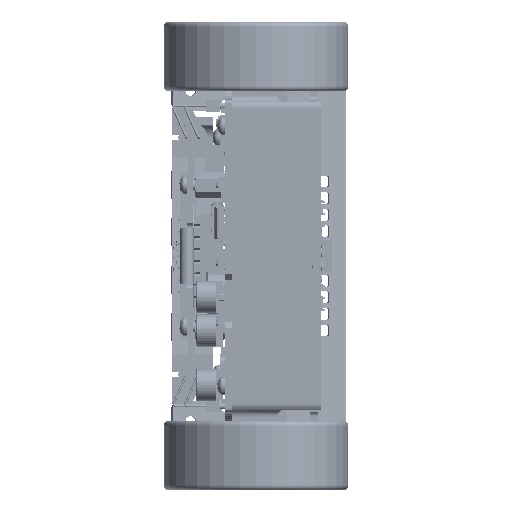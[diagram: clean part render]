
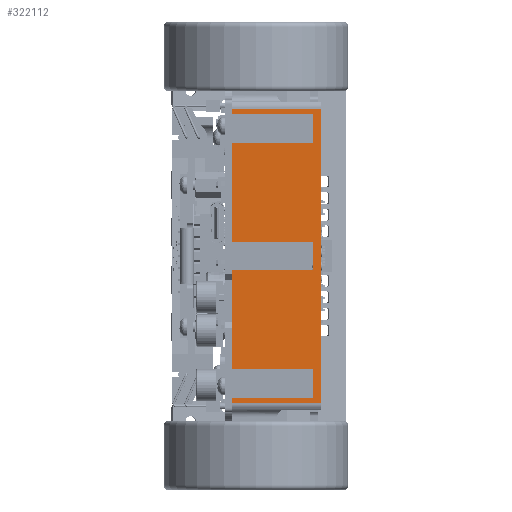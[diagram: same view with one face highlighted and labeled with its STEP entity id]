
A CAD part, left-side view. The second image highlights one B-rep face of the part: STEP entity #322112.
In plain terms, the highlighted planar face has unit normal (-1, 0, 0).
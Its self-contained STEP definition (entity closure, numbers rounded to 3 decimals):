
#14135 = EDGE_CURVE ( 'NONE', #25458, #67240, #252856, .T. ) ;
#14666 = CARTESIAN_POINT ( 'NONE',  ( -37.25, 5., 3. ) ) ;
#17296 = VERTEX_POINT ( 'NONE', #488987 ) ;
#21552 = LINE ( 'NONE', #258322, #439563 ) ;
#24164 = CARTESIAN_POINT ( 'NONE',  ( -37.25, -12., -24. ) ) ;
#25458 = VERTEX_POINT ( 'NONE', #24164 ) ;
#29896 = CARTESIAN_POINT ( 'NONE',  ( -37.25, -12., 24. ) ) ;
#33069 = LINE ( 'NONE', #65932, #324842 ) ;
#33829 = VECTOR ( 'NONE', #437827, 1000. ) ;
#40974 = ORIENTED_EDGE ( 'NONE', *, *, #14135, .T. ) ;
#44528 = EDGE_CURVE ( 'NONE', #476959, #25458, #21552, .T. ) ;
#52104 = CARTESIAN_POINT ( 'NONE',  ( -37.25, 5., -31.177 ) ) ;
#52202 = LINE ( 'NONE', #314317, #424426 ) ;
#55745 = EDGE_CURVE ( 'NONE', #261985, #178446, #464885, .T. ) ;
#65932 = CARTESIAN_POINT ( 'NONE',  ( -37.25, -13.8, -32.5 ) ) ;
#67240 = VERTEX_POINT ( 'NONE', #354701 ) ;
#71910 = ORIENTED_EDGE ( 'NONE', *, *, #483928, .T. ) ;
#81828 = EDGE_CURVE ( 'NONE', #17296, #147292, #52202, .T. ) ;
#90503 = CARTESIAN_POINT ( 'NONE',  ( -37.25, 5., 32.5 ) ) ;
#94589 = ORIENTED_EDGE ( 'NONE', *, *, #231141, .T. ) ;
#95689 = DIRECTION ( 'NONE',  ( 0., 0., -1. ) ) ;
#96623 = CARTESIAN_POINT ( 'NONE',  ( -37.25, -12., -24. ) ) ;
#98968 = LINE ( 'NONE', #371100, #437156 ) ;
#106258 = CARTESIAN_POINT ( 'NONE',  ( -37.25, -12., 30. ) ) ;
#110441 = DIRECTION ( 'NONE',  ( 0., 1., 0. ) ) ;
#130305 = DIRECTION ( 'NONE',  ( 0., -1., 0. ) ) ;
#136178 = VERTEX_POINT ( 'NONE', #284781 ) ;
#137547 = VECTOR ( 'NONE', #95689, 1000. ) ;
#138625 = ORIENTED_EDGE ( 'NONE', *, *, #471991, .T. ) ;
#142682 = CARTESIAN_POINT ( 'NONE',  ( -37.25, 5., -30. ) ) ;
#146991 = CARTESIAN_POINT ( 'NONE',  ( -37.25, -12., 3. ) ) ;
#147091 = EDGE_CURVE ( 'NONE', #207900, #377665, #254252, .T. ) ;
#147292 = VERTEX_POINT ( 'NONE', #344723 ) ;
#158286 = LINE ( 'NONE', #319201, #196170 ) ;
#160129 = CARTESIAN_POINT ( 'NONE',  ( -37.25, 5., 31.177 ) ) ;
#166741 = CARTESIAN_POINT ( 'NONE',  ( -37.25, -12., -30. ) ) ;
#173513 = VECTOR ( 'NONE', #477033, 1000. ) ;
#175341 = DIRECTION ( 'NONE',  ( 0., -1., 0. ) ) ;
#178446 = VERTEX_POINT ( 'NONE', #439399 ) ;
#186144 = ORIENTED_EDGE ( 'NONE', *, *, #327771, .T. ) ;
#187967 = LINE ( 'NONE', #142682, #334389 ) ;
#192751 = VECTOR ( 'NONE', #460947, 1000. ) ;
#195053 = CARTESIAN_POINT ( 'NONE',  ( -37.25, 5., 24. ) ) ;
#196170 = VECTOR ( 'NONE', #130305, 1000. ) ;
#198770 = EDGE_CURVE ( 'NONE', #232329, #428994, #284100, .T. ) ;
#205335 = DIRECTION ( 'NONE',  ( 0., 1., 0. ) ) ;
#205411 = LINE ( 'NONE', #210375, #399545 ) ;
#206975 = CARTESIAN_POINT ( 'NONE',  ( -37.25, 5., -30. ) ) ;
#207900 = VERTEX_POINT ( 'NONE', #256880 ) ;
#210375 = CARTESIAN_POINT ( 'NONE',  ( -37.25, -13.8, -31.177 ) ) ;
#210627 = EDGE_CURVE ( 'NONE', #67240, #412962, #244813, .T. ) ;
#214531 = ORIENTED_EDGE ( 'NONE', *, *, #81828, .T. ) ;
#220970 = ORIENTED_EDGE ( 'NONE', *, *, #210627, .T. ) ;
#230882 = CARTESIAN_POINT ( 'NONE',  ( -37.25, 5., -24. ) ) ;
#231141 = EDGE_CURVE ( 'NONE', #303481, #207900, #451400, .T. ) ;
#232329 = VERTEX_POINT ( 'NONE', #14666 ) ;
#235659 = VERTEX_POINT ( 'NONE', #461695 ) ;
#244813 = LINE ( 'NONE', #166741, #479570 ) ;
#247499 = EDGE_CURVE ( 'NONE', #136178, #303481, #158286, .T. ) ;
#252856 = LINE ( 'NONE', #96623, #173513 ) ;
#254252 = LINE ( 'NONE', #29896, #423427 ) ;
#256659 = ORIENTED_EDGE ( 'NONE', *, *, #475661, .T. ) ;
#256880 = CARTESIAN_POINT ( 'NONE',  ( -37.25, -12., 24. ) ) ;
#258322 = CARTESIAN_POINT ( 'NONE',  ( -37.25, 5., -24. ) ) ;
#259922 = DIRECTION ( 'NONE',  ( 0., 0., -1. ) ) ;
#261985 = VERTEX_POINT ( 'NONE', #335443 ) ;
#284100 = LINE ( 'NONE', #331784, #33829 ) ;
#284452 = LINE ( 'NONE', #372532, #478090 ) ;
#284781 = CARTESIAN_POINT ( 'NONE',  ( -37.25, 5., 30. ) ) ;
#288702 = EDGE_CURVE ( 'NONE', #235659, #261985, #33069, .T. ) ;
#294442 = DIRECTION ( 'NONE',  ( 0., 0., 1. ) ) ;
#303481 = VERTEX_POINT ( 'NONE', #360966 ) ;
#313176 = ORIENTED_EDGE ( 'NONE', *, *, #491979, .T. ) ;
#314317 = CARTESIAN_POINT ( 'NONE',  ( -37.25, -12., -3. ) ) ;
#319201 = CARTESIAN_POINT ( 'NONE',  ( -37.25, 5., 30. ) ) ;
#322112 = ADVANCED_FACE ( 'NONE', ( #435734 ), #357738, .T. ) ;
#323252 = DIRECTION ( 'NONE',  ( 0., 0., -1. ) ) ;
#324842 = VECTOR ( 'NONE', #418633, 1000. ) ;
#327771 = EDGE_CURVE ( 'NONE', #391876, #235659, #205411, .T. ) ;
#331784 = CARTESIAN_POINT ( 'NONE',  ( -37.25, 5., 3. ) ) ;
#334389 = VECTOR ( 'NONE', #377082, 1000. ) ;
#335443 = CARTESIAN_POINT ( 'NONE',  ( -37.25, -13.8, 31.177 ) ) ;
#344723 = CARTESIAN_POINT ( 'NONE',  ( -37.25, 5., -3. ) ) ;
#350209 = LINE ( 'NONE', #465944, #192751 ) ;
#354701 = CARTESIAN_POINT ( 'NONE',  ( -37.25, -12., -30. ) ) ;
#357738 = PLANE ( 'NONE',  #425157 ) ;
#360966 = CARTESIAN_POINT ( 'NONE',  ( -37.25, -12., 30. ) ) ;
#371100 = CARTESIAN_POINT ( 'NONE',  ( -37.25, 5., -3. ) ) ;
#372532 = CARTESIAN_POINT ( 'NONE',  ( -37.25, 5., 24. ) ) ;
#372574 = DIRECTION ( 'NONE',  ( -1., 0., 0. ) ) ;
#372774 = EDGE_CURVE ( 'NONE', #377665, #232329, #284452, .T. ) ;
#377082 = DIRECTION ( 'NONE',  ( 0., 0., -1. ) ) ;
#377665 = VERTEX_POINT ( 'NONE', #195053 ) ;
#383828 = EDGE_LOOP ( 'NONE', ( #138625, #186144, #396517, #431078, #313176, #442546, #94589, #438718, #489551, #420657, #256659, #214531, #71910, #483315, #40974, #220970 ) ) ;
#391876 = VERTEX_POINT ( 'NONE', #52104 ) ;
#393573 = DIRECTION ( 'NONE',  ( 0., 1., 0. ) ) ;
#396517 = ORIENTED_EDGE ( 'NONE', *, *, #288702, .T. ) ;
#399545 = VECTOR ( 'NONE', #434694, 1000. ) ;
#408242 = VECTOR ( 'NONE', #205335, 1000. ) ;
#411574 = VECTOR ( 'NONE', #259922, 1000. ) ;
#412962 = VERTEX_POINT ( 'NONE', #206975 ) ;
#418633 = DIRECTION ( 'NONE',  ( 0., 0., 1. ) ) ;
#420657 = ORIENTED_EDGE ( 'NONE', *, *, #198770, .T. ) ;
#423427 = VECTOR ( 'NONE', #110441, 1000. ) ;
#424426 = VECTOR ( 'NONE', #437761, 1000. ) ;
#425157 = AXIS2_PLACEMENT_3D ( 'NONE', #90503, #372574, #294442 ) ;
#428994 = VERTEX_POINT ( 'NONE', #146991 ) ;
#431078 = ORIENTED_EDGE ( 'NONE', *, *, #55745, .T. ) ;
#433478 = CARTESIAN_POINT ( 'NONE',  ( -37.25, -12., 3. ) ) ;
#434694 = DIRECTION ( 'NONE',  ( 0., -1., 0. ) ) ;
#435734 = FACE_OUTER_BOUND ( 'NONE', #383828, .T. ) ;
#437156 = VECTOR ( 'NONE', #323252, 1000. ) ;
#437761 = DIRECTION ( 'NONE',  ( 0., 1., 0. ) ) ;
#437827 = DIRECTION ( 'NONE',  ( 0., -1., 0. ) ) ;
#438718 = ORIENTED_EDGE ( 'NONE', *, *, #147091, .T. ) ;
#439399 = CARTESIAN_POINT ( 'NONE',  ( -37.25, 5., 31.177 ) ) ;
#439563 = VECTOR ( 'NONE', #175341, 1000. ) ;
#442546 = ORIENTED_EDGE ( 'NONE', *, *, #247499, .T. ) ;
#451400 = LINE ( 'NONE', #106258, #411574 ) ;
#460947 = DIRECTION ( 'NONE',  ( 0., 0., -1. ) ) ;
#461695 = CARTESIAN_POINT ( 'NONE',  ( -37.25, -13.8, -31.177 ) ) ;
#464885 = LINE ( 'NONE', #160129, #408242 ) ;
#465944 = CARTESIAN_POINT ( 'NONE',  ( -37.25, 5., 32.5 ) ) ;
#471991 = EDGE_CURVE ( 'NONE', #412962, #391876, #187967, .T. ) ;
#475661 = EDGE_CURVE ( 'NONE', #428994, #17296, #476099, .T. ) ;
#476099 = LINE ( 'NONE', #433478, #137547 ) ;
#476959 = VERTEX_POINT ( 'NONE', #230882 ) ;
#477033 = DIRECTION ( 'NONE',  ( 0., 0., -1. ) ) ;
#478090 = VECTOR ( 'NONE', #485772, 1000. ) ;
#479570 = VECTOR ( 'NONE', #393573, 1000. ) ;
#483315 = ORIENTED_EDGE ( 'NONE', *, *, #44528, .T. ) ;
#483928 = EDGE_CURVE ( 'NONE', #147292, #476959, #98968, .T. ) ;
#485772 = DIRECTION ( 'NONE',  ( 0., 0., -1. ) ) ;
#488987 = CARTESIAN_POINT ( 'NONE',  ( -37.25, -12., -3. ) ) ;
#489551 = ORIENTED_EDGE ( 'NONE', *, *, #372774, .T. ) ;
#491979 = EDGE_CURVE ( 'NONE', #178446, #136178, #350209, .T. ) ;
